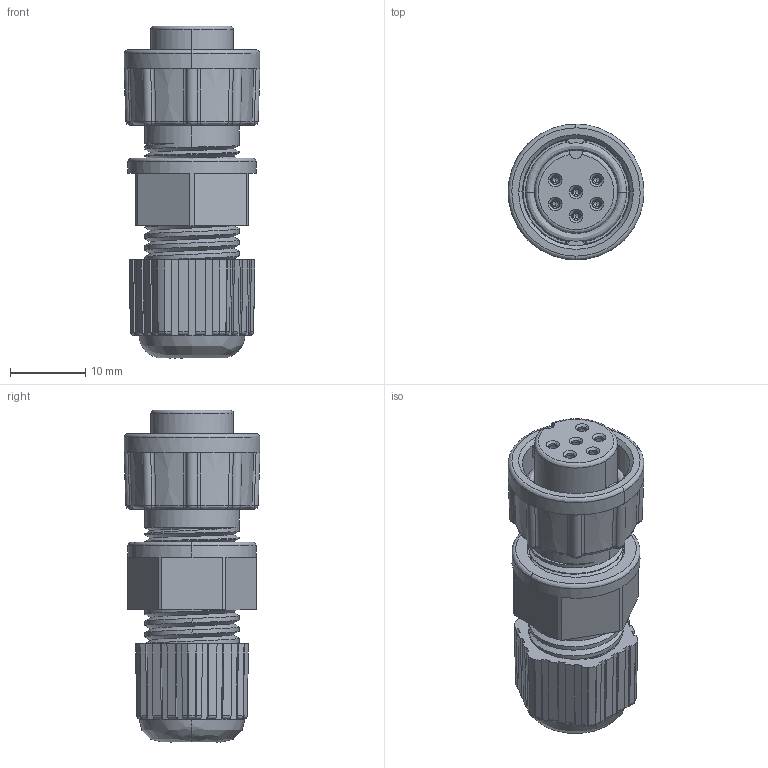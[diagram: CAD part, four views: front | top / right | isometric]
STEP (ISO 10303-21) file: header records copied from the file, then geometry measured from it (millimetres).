
FILE_DESCRIPTION (( 'STEP AP203' ), '1' );
FILE_NAME ('868-006-203KIT.STEP', '2024-06-13T20:24:03', ( '' ), ( '' ), 'SwSTEP 2.0', 'SolidWorks 2020', '' );
FILE_SCHEMA (( 'CONFIG_CONTROL_DESIGN' ));
Products named in the file (1): 868-006-203KIT
Bounding box: 18 x 18 x 44 mm (x, y, z)
Volume: 5803 mm3; surface area: 7379.3 mm2
Topology: 2 solids, 2 shells, 665 faces, 1772 edges, 1116 vertices
Faces by surface type: plane 245, cylinder 207, cone 118, bspline 95
Entity records: 33877 total; most frequent: CARTESIAN_POINT 18665, ORIENTED_EDGE 3496, DIRECTION 2738, EDGE_CURVE 1748, VERTEX_POINT 1116, AXIS2_PLACEMENT_3D 1074, EDGE_LOOP 702, ADVANCED_FACE 665
